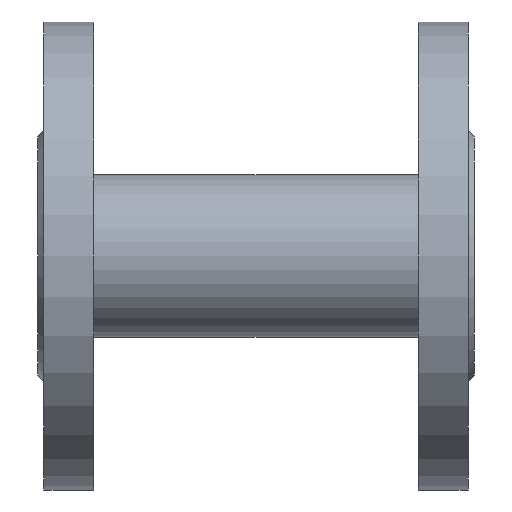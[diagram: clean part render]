
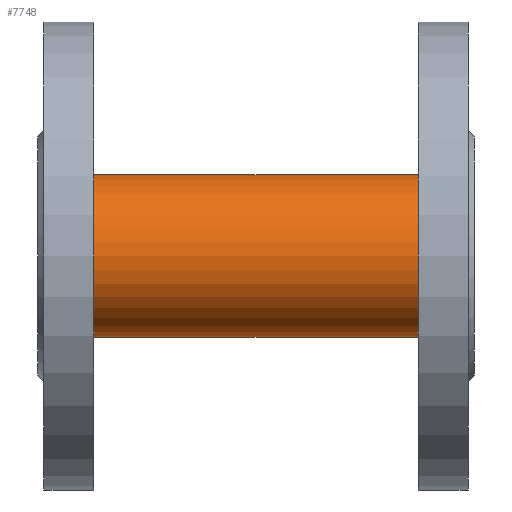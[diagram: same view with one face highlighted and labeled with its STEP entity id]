
A CAD part, front view. The second image highlights one B-rep face of the part: STEP entity #7748.
In plain terms, the highlighted cylindrical face has radius 26 mm (diameter 52 mm), a full revolution.
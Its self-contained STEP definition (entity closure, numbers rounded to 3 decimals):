
#1425=LINE('',#40606,#3261);
#1426=LINE('',#40612,#3262);
#3261=VECTOR('',#32876,1.);
#3262=VECTOR('',#32881,1.);
#5336=ELLIPSE('',#30012,36.77,26.);
#5337=ELLIPSE('',#30013,36.77,26.);
#5338=ELLIPSE('',#30014,36.77,26.);
#5339=ELLIPSE('',#30015,36.77,26.);
#7063=CYLINDRICAL_SURFACE('',#30018,26.);
#7748=ADVANCED_FACE('',(#10521,#10522,#10523),#7063,.T.);
#10521=FACE_BOUND('',#12024,.T.);
#10522=FACE_BOUND('',#12025,.T.);
#10523=FACE_BOUND('',#12026,.T.);
#12024=EDGE_LOOP('',(#14700,#14701,#14702,#14703,#14704,#14705));
#12025=EDGE_LOOP('',(#14706));
#12026=EDGE_LOOP('',(#14707));
#14700=ORIENTED_EDGE('',*,*,#24984,.T.);
#14701=ORIENTED_EDGE('',*,*,#24985,.T.);
#14702=ORIENTED_EDGE('',*,*,#24986,.T.);
#14703=ORIENTED_EDGE('',*,*,#24987,.T.);
#14704=ORIENTED_EDGE('',*,*,#24988,.T.);
#14705=ORIENTED_EDGE('',*,*,#24989,.T.);
#14706=ORIENTED_EDGE('',*,*,#24990,.F.);
#14707=ORIENTED_EDGE('',*,*,#24991,.F.);
#22290=VERTEX_POINT('',#40602);
#22291=VERTEX_POINT('',#40603);
#22292=VERTEX_POINT('',#40605);
#22293=VERTEX_POINT('',#40607);
#22294=VERTEX_POINT('',#40609);
#22295=VERTEX_POINT('',#40611);
#22296=VERTEX_POINT('',#40614);
#22297=VERTEX_POINT('',#40616);
#24984=EDGE_CURVE('',#22290,#22291,#5336,.T.);
#24985=EDGE_CURVE('',#22291,#22292,#5337,.T.);
#24986=EDGE_CURVE('',#22292,#22293,#1425,.T.);
#24987=EDGE_CURVE('',#22293,#22294,#5338,.T.);
#24988=EDGE_CURVE('',#22294,#22295,#5339,.T.);
#24989=EDGE_CURVE('',#22295,#22290,#1426,.T.);
#24990=EDGE_CURVE('',#22296,#22296,#28786,.T.);
#24991=EDGE_CURVE('',#22297,#22297,#28787,.T.);
#28786=CIRCLE('',#30016,26.);
#28787=CIRCLE('',#30017,26.);
#30012=AXIS2_PLACEMENT_3D('',#40601,#32872,#32873);
#30013=AXIS2_PLACEMENT_3D('',#40604,#32874,#32875);
#30014=AXIS2_PLACEMENT_3D('',#40608,#32877,#32878);
#30015=AXIS2_PLACEMENT_3D('',#40610,#32879,#32880);
#30016=AXIS2_PLACEMENT_3D('',#40613,#32882,#32883);
#30017=AXIS2_PLACEMENT_3D('',#40615,#32884,#32885);
#30018=AXIS2_PLACEMENT_3D('',#40617,#32886,#32887);
#32872=DIRECTION('',(-0.707,-0.707,0.));
#32873=DIRECTION('',(-0.707,0.707,0.));
#32874=DIRECTION('',(-0.707,-0.707,0.));
#32875=DIRECTION('',(-0.707,0.707,0.));
#32876=DIRECTION('',(1.,0.,0.));
#32877=DIRECTION('',(0.707,-0.707,0.));
#32878=DIRECTION('',(-0.707,-0.707,0.));
#32879=DIRECTION('',(0.707,-0.707,0.));
#32880=DIRECTION('',(-0.707,-0.707,0.));
#32881=DIRECTION('',(-1.,0.,0.));
#32882=DIRECTION('',(1.,0.,0.));
#32883=DIRECTION('',(0.,0.,1.));
#32884=DIRECTION('',(-1.,0.,0.));
#32885=DIRECTION('',(0.,0.,-1.));
#32886=DIRECTION('',(-1.,0.,0.));
#32887=DIRECTION('',(0.,0.,1.));
#40601=CARTESIAN_POINT('',(45.,-22.49,180.5));
#40602=CARTESIAN_POINT('',(20.,2.51,187.641));
#40603=CARTESIAN_POINT('',(19.,3.51,180.5));
#40604=CARTESIAN_POINT('',(45.,-22.49,180.5));
#40605=CARTESIAN_POINT('',(20.,2.51,173.359));
#40606=CARTESIAN_POINT('',(20.,2.51,173.359));
#40607=CARTESIAN_POINT('',(70.,2.51,173.359));
#40608=CARTESIAN_POINT('',(45.,-22.49,180.5));
#40609=CARTESIAN_POINT('',(71.,3.51,180.5));
#40610=CARTESIAN_POINT('',(45.,-22.49,180.5));
#40611=CARTESIAN_POINT('',(70.,2.51,187.641));
#40612=CARTESIAN_POINT('',(70.,2.51,187.641));
#40613=CARTESIAN_POINT('',(97.,-22.49,180.5));
#40614=CARTESIAN_POINT('',(97.,-22.49,206.5));
#40615=CARTESIAN_POINT('',(-7.,-22.49,180.5));
#40616=CARTESIAN_POINT('',(-7.,-22.49,154.5));
#40617=CARTESIAN_POINT('',(76.,-22.49,180.5));
